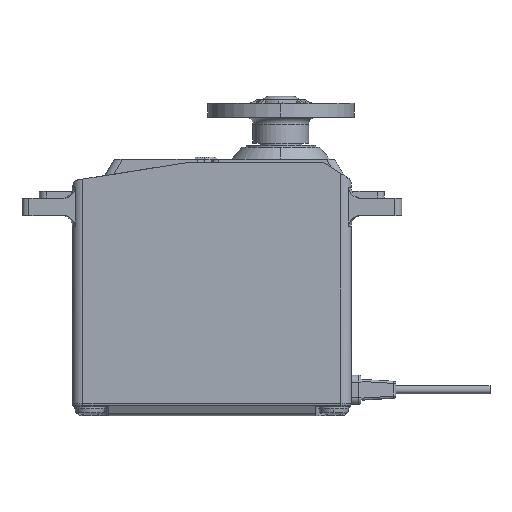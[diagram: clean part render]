
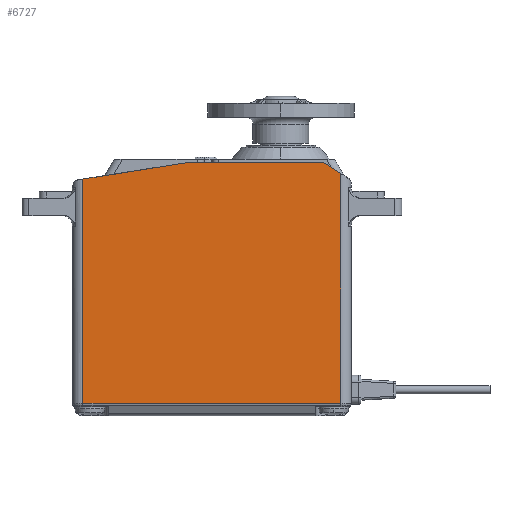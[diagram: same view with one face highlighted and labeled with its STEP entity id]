
A CAD part, left-side view. The second image highlights one B-rep face of the part: STEP entity #6727.
In plain terms, the highlighted planar face has unit normal (-1, 0, 0).
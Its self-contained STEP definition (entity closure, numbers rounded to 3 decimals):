
#287 = ORIENTED_EDGE ( 'NONE', *, *, #2660, .F. ) ;
#456 = EDGE_CURVE ( 'NONE', #7177, #6898, #4125, .T. ) ;
#591 = LINE ( 'NONE', #4488, #3377 ) ;
#664 = DIRECTION ( 'NONE',  ( 1., 0., 0. ) ) ;
#1048 = VECTOR ( 'NONE', #2094, 1000. ) ;
#1069 = CARTESIAN_POINT ( 'NONE',  ( -10., 28.4, -2.862 ) ) ;
#1953 = LINE ( 'NONE', #7912, #1048 ) ;
#2094 = DIRECTION ( 'NONE',  ( 0., 0.988, -0.157 ) ) ;
#2215 = ORIENTED_EDGE ( 'NONE', *, *, #3306, .F. ) ;
#2220 = CARTESIAN_POINT ( 'NONE',  ( -10., 13.421, -0.5 ) ) ;
#2290 = AXIS2_PLACEMENT_3D ( 'NONE', #12214, #5560, #12612 ) ;
#2340 = ORIENTED_EDGE ( 'NONE', *, *, #7046, .T. ) ;
#2388 = DIRECTION ( 'NONE',  ( 1., 0., 0. ) ) ;
#2408 = DIRECTION ( 'NONE',  ( 0., 0., -1. ) ) ;
#2424 = CARTESIAN_POINT ( 'NONE',  ( -10., 28.4, -0.5 ) ) ;
#2638 = DIRECTION ( 'NONE',  ( 0., 1., 0. ) ) ;
#2660 = EDGE_CURVE ( 'NONE', #4193, #8574, #4730, .T. ) ;
#2870 = CARTESIAN_POINT ( 'NONE',  ( -10., -8.6, -35.066 ) ) ;
#3211 = CARTESIAN_POINT ( 'NONE',  ( -10., -5.813, -0.5 ) ) ;
#3306 = EDGE_CURVE ( 'NONE', #4025, #10750, #8294, .T. ) ;
#3377 = VECTOR ( 'NONE', #11409, 1000. ) ;
#3541 = EDGE_CURVE ( 'NONE', #4193, #6269, #1953, .T. ) ;
#3957 = CARTESIAN_POINT ( 'NONE',  ( -10., 29.9, -35.066 ) ) ;
#4025 = VERTEX_POINT ( 'NONE', #9707 ) ;
#4125 = CIRCLE ( 'NONE', #2290, 1. ) ;
#4181 = VECTOR ( 'NONE', #6912, 1000. ) ;
#4193 = VERTEX_POINT ( 'NONE', #11041 ) ;
#4342 = LINE ( 'NONE', #2424, #5077 ) ;
#4382 = EDGE_CURVE ( 'NONE', #9919, #6269, #4342, .T. ) ;
#4488 = CARTESIAN_POINT ( 'NONE',  ( -10., 9.9, -0.5 ) ) ;
#4515 = AXIS2_PLACEMENT_3D ( 'NONE', #6543, #664, #2638 ) ;
#4730 = CIRCLE ( 'NONE', #4515, 1. ) ;
#4975 = EDGE_LOOP ( 'NONE', ( #10641, #10195, #5595, #2215, #2340, #6349, #9909, #287 ) ) ;
#5077 = VECTOR ( 'NONE', #5415, 1000. ) ;
#5415 = DIRECTION ( 'NONE',  ( 0., 0., 1. ) ) ;
#5560 = DIRECTION ( 'NONE',  ( 1., 0., 0. ) ) ;
#5595 = ORIENTED_EDGE ( 'NONE', *, *, #7430, .F. ) ;
#5892 = LINE ( 'NONE', #12624, #10929 ) ;
#6269 = VERTEX_POINT ( 'NONE', #1069 ) ;
#6279 = DIRECTION ( 'NONE',  ( 0., 1., 0. ) ) ;
#6349 = ORIENTED_EDGE ( 'NONE', *, *, #456, .F. ) ;
#6543 = CARTESIAN_POINT ( 'NONE',  ( -10., 13.421, -1.5 ) ) ;
#6727 = ADVANCED_FACE ( 'NONE', ( #11213 ), #8325, .F. ) ;
#6898 = VERTEX_POINT ( 'NONE', #11533 ) ;
#6912 = DIRECTION ( 'NONE',  ( 0., 1., 0. ) ) ;
#6926 = DIRECTION ( 'NONE',  ( 0., 0.848, 0.53 ) ) ;
#7046 = EDGE_CURVE ( 'NONE', #4025, #6898, #5892, .T. ) ;
#7177 = VERTEX_POINT ( 'NONE', #3211 ) ;
#7430 = EDGE_CURVE ( 'NONE', #10750, #9919, #8835, .T. ) ;
#7912 = CARTESIAN_POINT ( 'NONE',  ( -10., 13.5, -0.5 ) ) ;
#8294 = LINE ( 'NONE', #11181, #10562 ) ;
#8325 = PLANE ( 'NONE',  #9205 ) ;
#8574 = VERTEX_POINT ( 'NONE', #2220 ) ;
#8835 = LINE ( 'NONE', #3957, #4181 ) ;
#9205 = AXIS2_PLACEMENT_3D ( 'NONE', #11152, #2388, #6279 ) ;
#9707 = CARTESIAN_POINT ( 'NONE',  ( -10., -8.6, -2.063 ) ) ;
#9909 = ORIENTED_EDGE ( 'NONE', *, *, #11293, .F. ) ;
#9919 = VERTEX_POINT ( 'NONE', #11245 ) ;
#10195 = ORIENTED_EDGE ( 'NONE', *, *, #4382, .F. ) ;
#10562 = VECTOR ( 'NONE', #2408, 1000. ) ;
#10641 = ORIENTED_EDGE ( 'NONE', *, *, #3541, .T. ) ;
#10750 = VERTEX_POINT ( 'NONE', #2870 ) ;
#10929 = VECTOR ( 'NONE', #6926, 1000. ) ;
#11041 = CARTESIAN_POINT ( 'NONE',  ( -10., 13.578, -0.512 ) ) ;
#11152 = CARTESIAN_POINT ( 'NONE',  ( -10., 29.9, -0.5 ) ) ;
#11181 = CARTESIAN_POINT ( 'NONE',  ( -10., -8.6, -0.5 ) ) ;
#11213 = FACE_OUTER_BOUND ( 'NONE', #4975, .T. ) ;
#11245 = CARTESIAN_POINT ( 'NONE',  ( -10., 28.4, -35.066 ) ) ;
#11293 = EDGE_CURVE ( 'NONE', #8574, #7177, #591, .T. ) ;
#11409 = DIRECTION ( 'NONE',  ( 0., -1., 0. ) ) ;
#11533 = CARTESIAN_POINT ( 'NONE',  ( -10., -6.343, -0.652 ) ) ;
#12214 = CARTESIAN_POINT ( 'NONE',  ( -10., -5.813, -1.5 ) ) ;
#12612 = DIRECTION ( 'NONE',  ( 0., 1., 0. ) ) ;
#12624 = CARTESIAN_POINT ( 'NONE',  ( -10., -10.1, -3. ) ) ;
